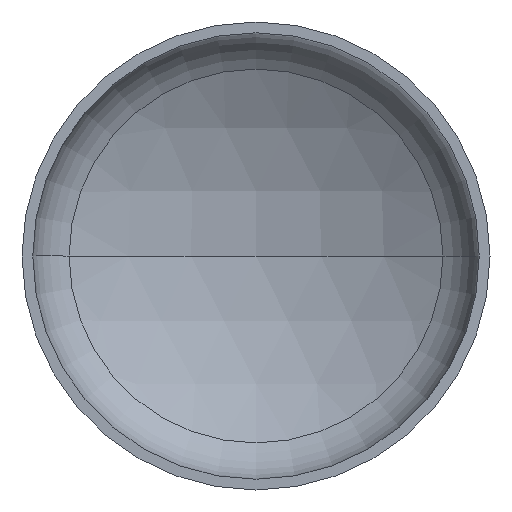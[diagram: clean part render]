
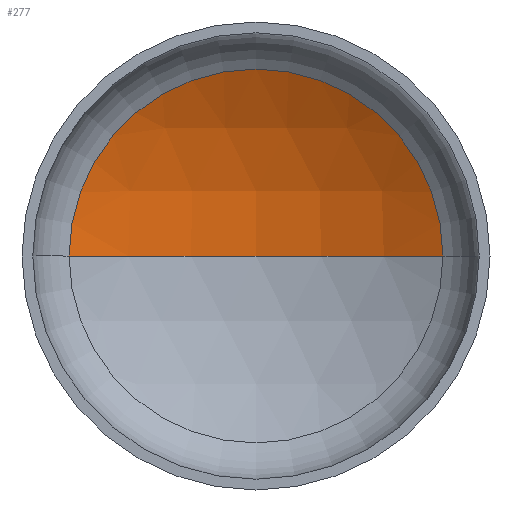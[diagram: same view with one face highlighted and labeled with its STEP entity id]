
A CAD part, front view. The second image highlights one B-rep face of the part: STEP entity #277.
In plain terms, the highlighted spherical face has radius 800 mm.
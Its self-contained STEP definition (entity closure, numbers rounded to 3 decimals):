
#18 = ORIENTED_EDGE ( 'NONE', *, *, #147, .F. ) ;
#24 = AXIS2_PLACEMENT_3D ( 'NONE', #290, #247, #381 ) ;
#39 = EDGE_LOOP ( 'NONE', ( #18, #112, #101 ) ) ;
#50 = AXIS2_PLACEMENT_3D ( 'NONE', #254, #253, #251 ) ;
#51 = AXIS2_PLACEMENT_3D ( 'NONE', #283, #278, #276 ) ;
#56 = AXIS2_PLACEMENT_3D ( 'NONE', #224, #383, #270 ) ;
#85 = VERTEX_POINT ( 'NONE', #209 ) ;
#101 = ORIENTED_EDGE ( 'NONE', *, *, #133, .T. ) ;
#109 = VERTEX_POINT ( 'NONE', #294 ) ;
#112 = ORIENTED_EDGE ( 'NONE', *, *, #140, .T. ) ;
#133 = EDGE_CURVE ( 'NONE', #85, #109, #336, .T. ) ;
#140 = EDGE_CURVE ( 'NONE', #309, #85, #280, .T. ) ;
#147 = EDGE_CURVE ( 'NONE', #309, #109, #206, .T. ) ;
#206 = CIRCLE ( 'NONE', #50, 800. ) ;
#209 = CARTESIAN_POINT ( 'NONE',  ( 399.38, 204.303, 0. ) ) ;
#224 = CARTESIAN_POINT ( 'NONE',  ( 0., 204.303, 0. ) ) ;
#247 = DIRECTION ( 'NONE',  ( 0., 0., -1. ) ) ;
#251 = DIRECTION ( 'NONE',  ( 1., 0., 0. ) ) ;
#253 = DIRECTION ( 'NONE',  ( 0., 0., 1. ) ) ;
#254 = CARTESIAN_POINT ( 'NONE',  ( 0., -488.875, 0. ) ) ;
#270 = DIRECTION ( 'NONE',  ( 1., 0., 0. ) ) ;
#276 = DIRECTION ( 'NONE',  ( -1., 0., 0. ) ) ;
#277 = ADVANCED_FACE ( 'NONE', ( #324 ), #328, .F. ) ;
#278 = DIRECTION ( 'NONE',  ( 0., 0., -1. ) ) ;
#280 = CIRCLE ( 'NONE', #51, 800. ) ;
#283 = CARTESIAN_POINT ( 'NONE',  ( 0., -488.875, 0. ) ) ;
#290 = CARTESIAN_POINT ( 'NONE',  ( 0., -488.875, 0. ) ) ;
#294 = CARTESIAN_POINT ( 'NONE',  ( -399.38, 204.303, 0. ) ) ;
#309 = VERTEX_POINT ( 'NONE', #334 ) ;
#324 = FACE_OUTER_BOUND ( 'NONE', #39, .T. ) ;
#328 = SPHERICAL_SURFACE ( 'NONE', #24, 800. ) ;
#334 = CARTESIAN_POINT ( 'NONE',  ( 0., 311.125, 0. ) ) ;
#336 = CIRCLE ( 'NONE', #56, 399.38 ) ;
#381 = DIRECTION ( 'NONE',  ( -1., 0., 0. ) ) ;
#383 = DIRECTION ( 'NONE',  ( 0., -1., 0. ) ) ;
